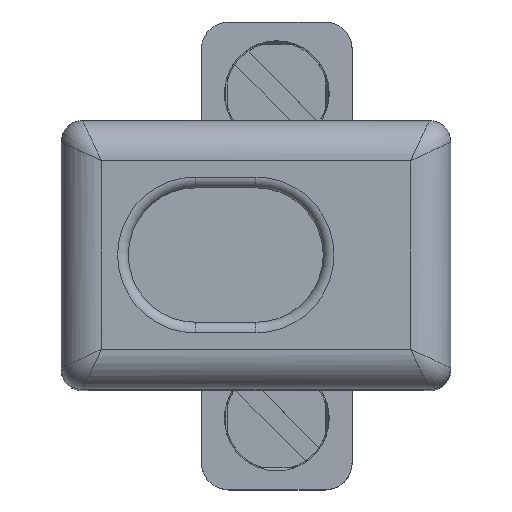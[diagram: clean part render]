
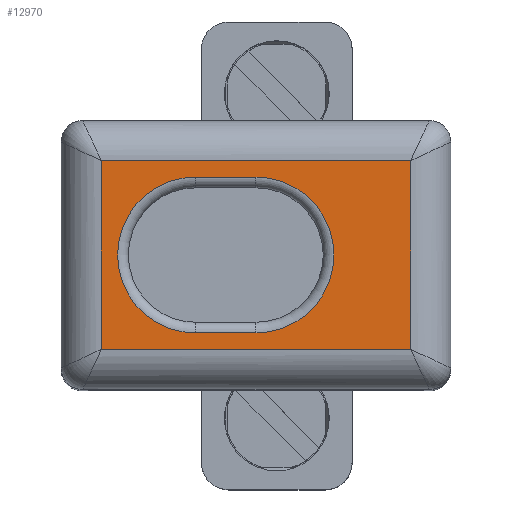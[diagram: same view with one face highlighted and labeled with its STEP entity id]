
A CAD part, top view. The second image highlights one B-rep face of the part: STEP entity #12970.
In plain terms, the highlighted planar face has unit normal (0, 0, 1).
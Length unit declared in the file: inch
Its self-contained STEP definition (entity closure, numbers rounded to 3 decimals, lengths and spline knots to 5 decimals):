
#2879=CARTESIAN_POINT('',(-0.37178,-0.93677,
3.92364));
#2891=DIRECTION('',(0.,1.,0.));
#2892=VECTOR('',#2891,0.27598);
#2893=CARTESIAN_POINT('',(-0.37178,-1.21276,
3.92364));
#2894=LINE('',#2893,#2892);
#2907=DIRECTION('',(-1.,0.,0.));
#2908=VECTOR('',#2907,0.08858);
#2909=CARTESIAN_POINT('',(-0.1454,-1.18894,
3.92364));
#2910=LINE('',#2909,#2908);
#2911=CARTESIAN_POINT('',(-0.1454,-1.07476,
3.92364));
#2912=DIRECTION('',(0.,0.,-1.));
#2913=DIRECTION('',(0.,1.,0.));
#2914=AXIS2_PLACEMENT_3D('',#2911,#2912,#2913);
#2916=DIRECTION('',(1.,0.,0.));
#2917=VECTOR('',#2916,0.08858);
#2918=CARTESIAN_POINT('',(-0.23398,-0.96059,
3.92364));
#2919=LINE('',#2918,#2917);
#2920=CARTESIAN_POINT('',(-0.23398,-1.07476,
3.92364));
#2921=DIRECTION('',(0.,0.,-1.));
#2922=DIRECTION('',(0.,-1.,0.));
#2923=AXIS2_PLACEMENT_3D('',#2920,#2921,#2922);
#2929=CARTESIAN_POINT('',(-0.37178,-1.21276,
3.92364));
#2941=DIRECTION('',(-1.,0.,0.));
#2942=VECTOR('',#2941,0.45276);
#2943=CARTESIAN_POINT('',(0.08098,-1.21276,
3.92364));
#2944=LINE('',#2943,#2942);
#2974=DIRECTION('',(0.,-1.,0.));
#2975=VECTOR('',#2974,0.27598);
#2976=CARTESIAN_POINT('',(0.08098,-0.93677,
3.92364));
#2977=LINE('',#2976,#2975);
#3006=DIRECTION('',(1.,0.,0.));
#3007=VECTOR('',#3006,0.45276);
#3008=CARTESIAN_POINT('',(-0.37178,-0.93677,
3.92364));
#3009=LINE('',#3008,#3007);
#7294=CARTESIAN_POINT('',(0.08098,-0.93677,
3.92364));
#7295=CARTESIAN_POINT('',(0.08098,-1.21276,
3.92364));
#7296=VERTEX_POINT('',#7294);
#7297=VERTEX_POINT('',#7295);
#7364=VERTEX_POINT('',#2929);
#7473=CARTESIAN_POINT('',(-0.23398,-0.96059,
3.92364));
#7475=VERTEX_POINT('',#7473);
#7478=CARTESIAN_POINT('',(-0.23398,-1.18894,
3.92364));
#7479=VERTEX_POINT('',#7478);
#7520=CARTESIAN_POINT('',(-0.1454,-0.96059,
3.92364));
#7521=VERTEX_POINT('',#7520);
#7536=VERTEX_POINT('',#2879);
#7633=CARTESIAN_POINT('',(-0.1454,-1.18894,
3.92364));
#7634=VERTEX_POINT('',#7633);
#12946=CARTESIAN_POINT('',(0.14003,-1.18894,
3.92364));
#12947=DIRECTION('',(0.,0.,1.));
#12948=DIRECTION('',(0.,-1.,0.));
#12949=AXIS2_PLACEMENT_3D('',#12946,#12947,#12948);
#12950=PLANE('',#12949);
#12952=ORIENTED_EDGE('',*,*,#12951,.T.);
#12953=ORIENTED_EDGE('',*,*,#12939,.T.);
#12955=ORIENTED_EDGE('',*,*,#12954,.T.);
#12957=ORIENTED_EDGE('',*,*,#12956,.T.);
#12958=EDGE_LOOP('',(#12952,#12953,#12955,#12957));
#12959=FACE_OUTER_BOUND('',#12958,.F.);
#12961=ORIENTED_EDGE('',*,*,#12960,.F.);
#12963=ORIENTED_EDGE('',*,*,#12962,.F.);
#12965=ORIENTED_EDGE('',*,*,#12964,.F.);
#12967=ORIENTED_EDGE('',*,*,#12966,.F.);
#12968=EDGE_LOOP('',(#12961,#12963,#12965,#12967));
#12969=FACE_BOUND('',#12968,.F.);
#12970=ADVANCED_FACE('',(#12959,#12969),#12950,.T.);
#2915=CIRCLE('',#2914,0.11417);
#2924=CIRCLE('',#2923,0.11417);
#12939=EDGE_CURVE('',#7364,#7536,#2894,.T.);
#12951=EDGE_CURVE('',#7297,#7364,#2944,.T.);
#12954=EDGE_CURVE('',#7536,#7296,#3009,.T.);
#12956=EDGE_CURVE('',#7296,#7297,#2977,.T.);
#12960=EDGE_CURVE('',#7634,#7479,#2910,.T.);
#12962=EDGE_CURVE('',#7521,#7634,#2915,.T.);
#12964=EDGE_CURVE('',#7475,#7521,#2919,.T.);
#12966=EDGE_CURVE('',#7479,#7475,#2924,.T.);
